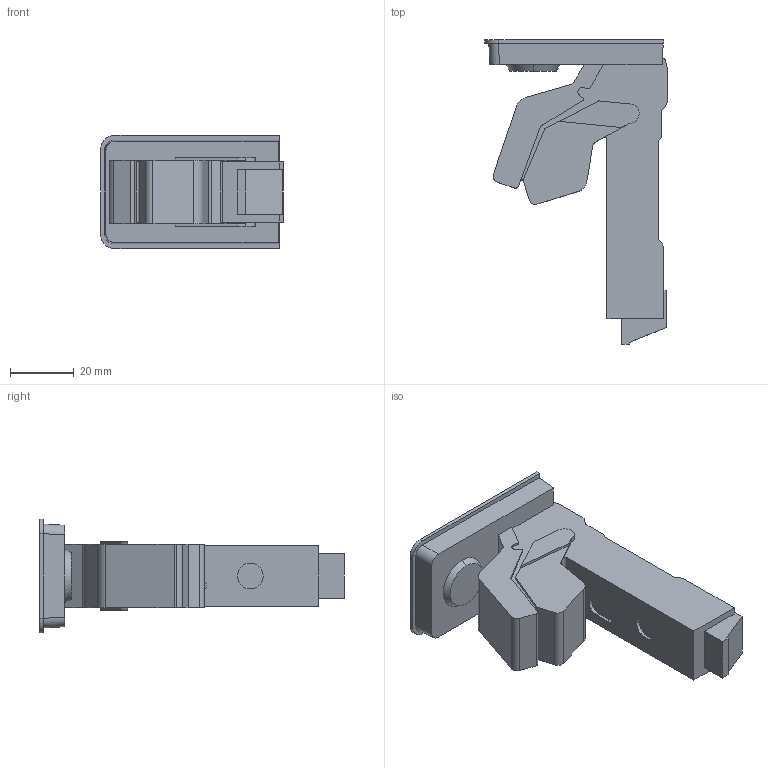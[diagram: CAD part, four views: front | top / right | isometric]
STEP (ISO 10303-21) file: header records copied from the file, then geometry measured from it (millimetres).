
FILE_DESCRIPTION (( 'STEP AP214' ), '1' );
FILE_NAME ('Mirro Glas K14, geschlossen, neutral, Adapter Klarglas, Platte 00 - Neu -.step', '2019-10-01T07:52:25', ( '' ), ( '' ), 'SwSTEP 2.0', 'SolidWorks 2019', '' );
FILE_SCHEMA (( 'AUTOMOTIVE_DESIGN' ));
Length unit declared in the file: millimetre
Products named in the file (1): Mirro Glas K14, geschlossen, neutral, Adapter Klarglas, Platte 00 - Neu -
Bounding box: 57.16 x 95.3 x 35.5 mm (x, y, z)
Volume: 61252.3 mm3; surface area: 15297.6 mm2
Topology: 1 solids, 1 shells, 116 faces, 327 edges, 218 vertices
Faces by surface type: plane 71, cylinder 43, cone 2
Entity records: 3789 total; most frequent: CARTESIAN_POINT 680, ORIENTED_EDGE 654, DIRECTION 639, EDGE_CURVE 327, LINE 237, VECTOR 237, VERTEX_POINT 218, AXIS2_PLACEMENT_3D 201
